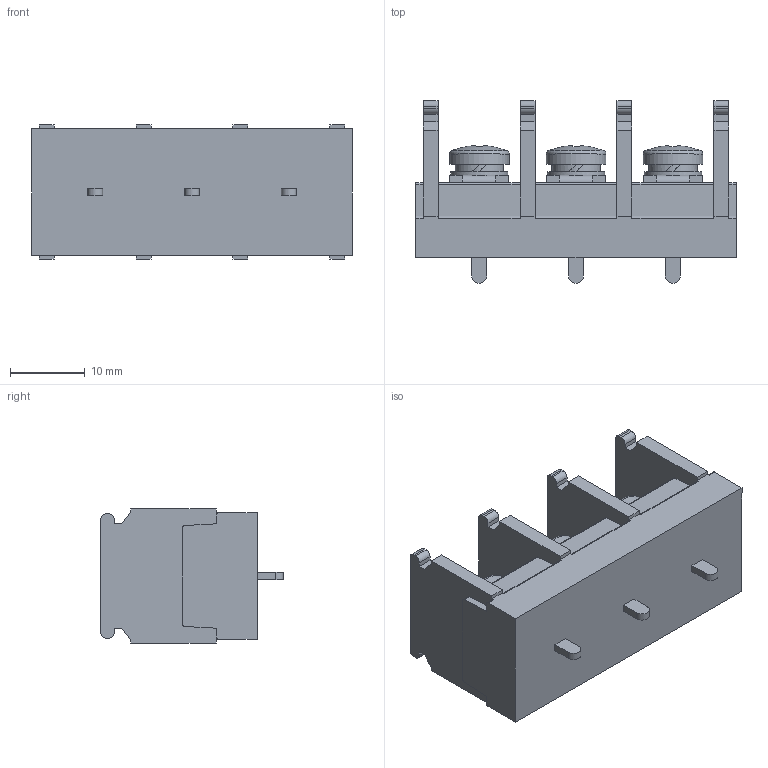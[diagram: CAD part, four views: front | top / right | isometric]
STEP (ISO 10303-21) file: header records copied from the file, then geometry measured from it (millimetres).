
FILE_DESCRIPTION(/* description */ ('Alibre Inc.'),/* implementation_level */ '2;1');
FILE_NAME(/* name */ 'export0',/* time_stamp */ '2016-08-02T19:06:44+09:00',/* author */ (''),/* organization */ (''),/* preprocessor_version */ 'ST-DEVELOPER v14',/* originating_system */ 'Alibre',/* authorisation */ '');
FILE_SCHEMA (('CONFIG_CONTROL_DESIGN'));
Length unit declared in the file: centimetre
Products named in the file (1): ID_1
Bounding box: 43 x 24.5 x 18 mm (x, y, z)
Volume: 8990.7 mm3; surface area: 5095.2 mm2
Topology: 1 solids, 20 shells, 665 faces, 1755 edges, 1162 vertices
Faces by surface type: plane 480, bspline 104, cylinder 60, cone 15, sphere 3, torus 3
Full cylindrical faces by diameter (mm): 4 x3, 6.5 x3, 7.7 x3, 8 x3
Entity records: 19758 total; most frequent: CARTESIAN_POINT 4529, ORIENTED_EDGE 3462, DIRECTION 2296, EDGE_CURVE 1731, VECTOR 1272, LINE 1272, VERTEX_POINT 1153, AXIS2_PLACEMENT_3D 736
